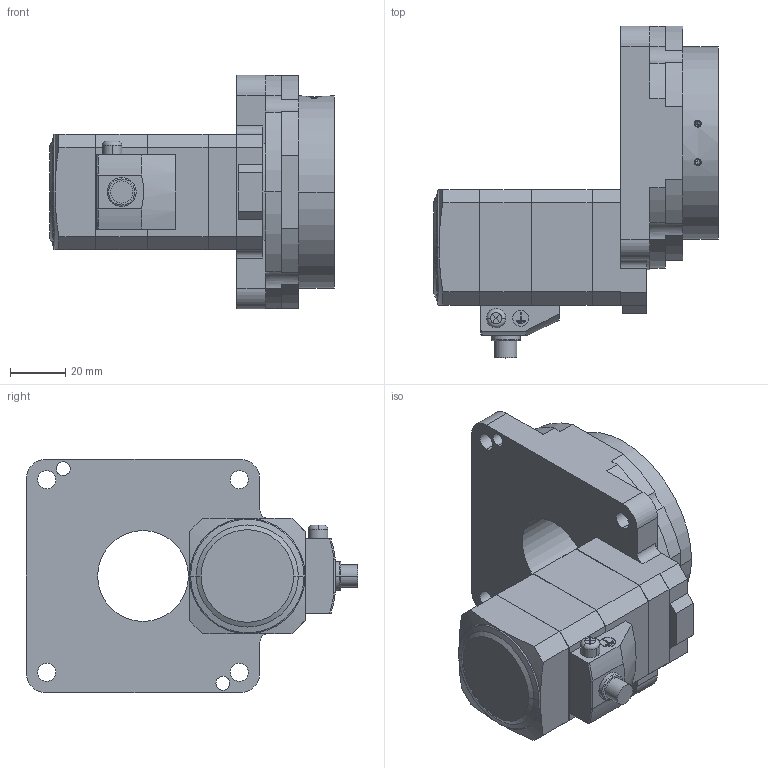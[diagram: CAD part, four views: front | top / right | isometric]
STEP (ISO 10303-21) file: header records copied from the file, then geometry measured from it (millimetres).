
FILE_DESCRIPTION( ( '' ), '1' );
FILE_NAME( 'Z:/14ＣＡＤ/01_CAD業務フォルダ/12_STEP書き出し/05_STEPファイル名の変更作業/02_ファイル名変換の作業場/■手動で書き出し_DG2/DG85R-ARAA-1(1)→D2854-A.stp', '2013-01-08T00:52:16', ( '' ), ( '' ), ' ', ' ', ' ' );
FILE_SCHEMA( ( 'CONFIG_CONTROL_DESIGN' ) );
Length unit declared in the file: millimetre
Products named in the file (2): 1; 2
Bounding box: 103.5 x 120.6 x 85 mm (x, y, z)
Volume: 292105.7 mm3; surface area: 49414.8 mm2
Topology: 2 solids, 2 shells, 292 faces, 761 edges, 481 vertices
Faces by surface type: plane 144, cylinder 91, cone 45, torus 8, sphere 4
Entity records: 9048 total; most frequent: CARTESIAN_POINT 1690, DIRECTION 1556, ORIENTED_EDGE 1482, EDGE_CURVE 741, AXIS2_PLACEMENT_3D 544, VERTEX_POINT 481, LINE 468, VECTOR 468
